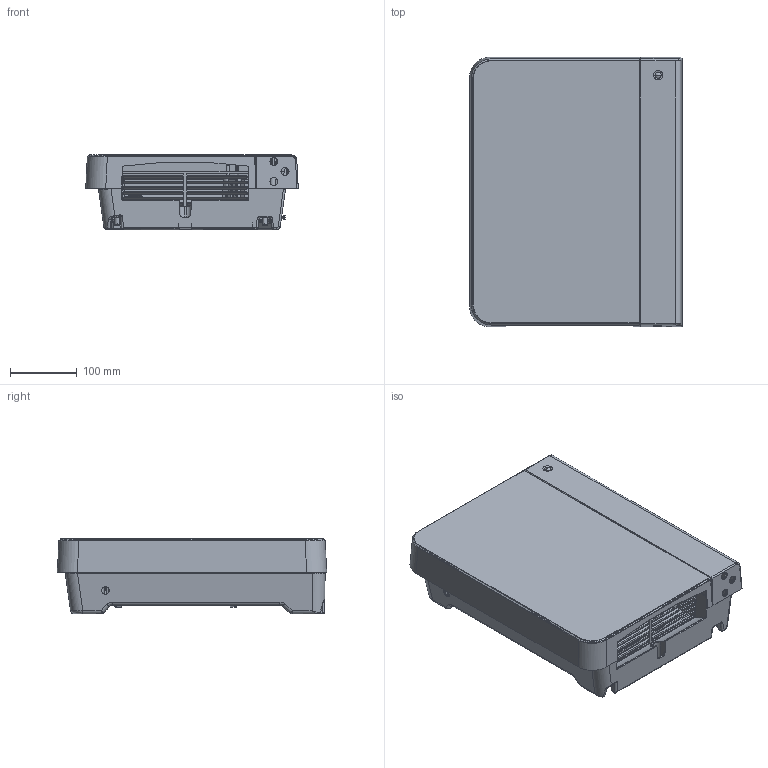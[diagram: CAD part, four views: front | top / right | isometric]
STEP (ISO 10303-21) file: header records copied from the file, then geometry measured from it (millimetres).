
FILE_DESCRIPTION(('FreeCAD Model'),'2;1');
FILE_NAME('Open CASCADE Shape Model','2026-06-16T09:50:37',(''),(''), 'Open CASCADE STEP processor 7.8','FreeCAD','Unknown');
FILE_SCHEMA(('AUTOMOTIVE_DESIGN { 1 0 10303 214 1 1 1 1 }'));
Length unit declared in the file: millimetre
Products named in the file (10): Windy; TBE_MASCHERINA-COMANDI; TBE_POSTERIORE; SLI_GUIDA-FILTRO; SLI_GRIGLIA; SLI_GR-FILTRO_ASM; SLI_FILTRO-CORPO; TBE_GR-MOTHER-BOARD_ASM; PIR_AF0; TBE_FRONTALE_NOGLASS
Assembly tree (9 placements, depth 3):
  Windy
    TBE_MASCHERINA-COMANDI
    TBE_POSTERIORE
    SLI_GUIDA-FILTRO
    SLI_GRIGLIA
    SLI_GR-FILTRO_ASM
      SLI_FILTRO-CORPO
    TBE_GR-MOTHER-BOARD_ASM
      PIR_AF0
    TBE_FRONTALE_NOGLASS
Bounding box: 318 x 403 x 113.25 mm (x, y, z)
Volume: 1080168.9 mm3; surface area: 1111654 mm2
Topology: 7 solids, 7 shells, 4095 faces, 11107 edges, 7022 vertices
Faces by surface type: plane 1950, cylinder 895, bspline 586, cone 394, torus 199, revolution 34, sphere 21, extrusion 16
Entity records: 170402 total; most frequent: CARTESIAN_POINT 72947, ORIENTED_EDGE 22210, DIRECTION 17470, EDGE_CURVE 11105, VERTEX_POINT 7022, VECTOR 6276, LINE 6260, AXIS2_PLACEMENT_3D 5580
